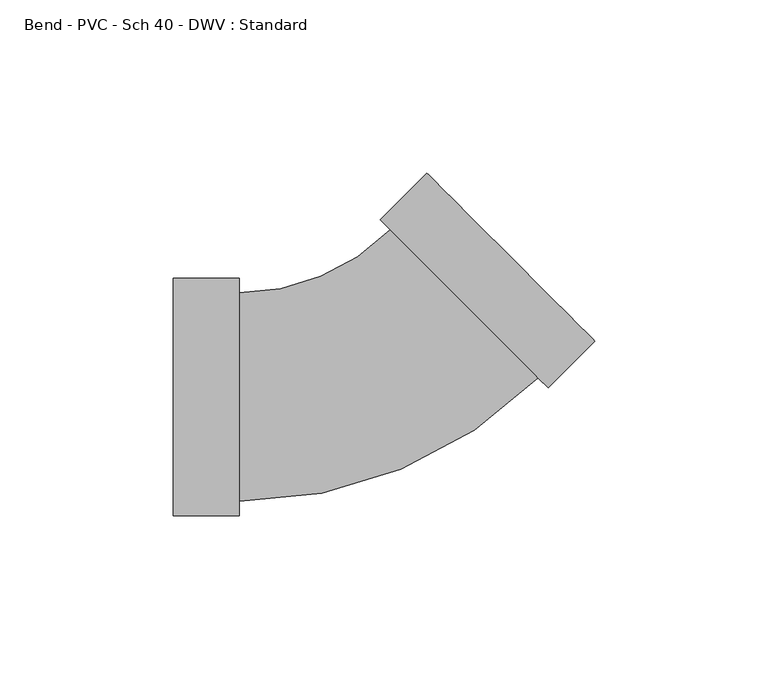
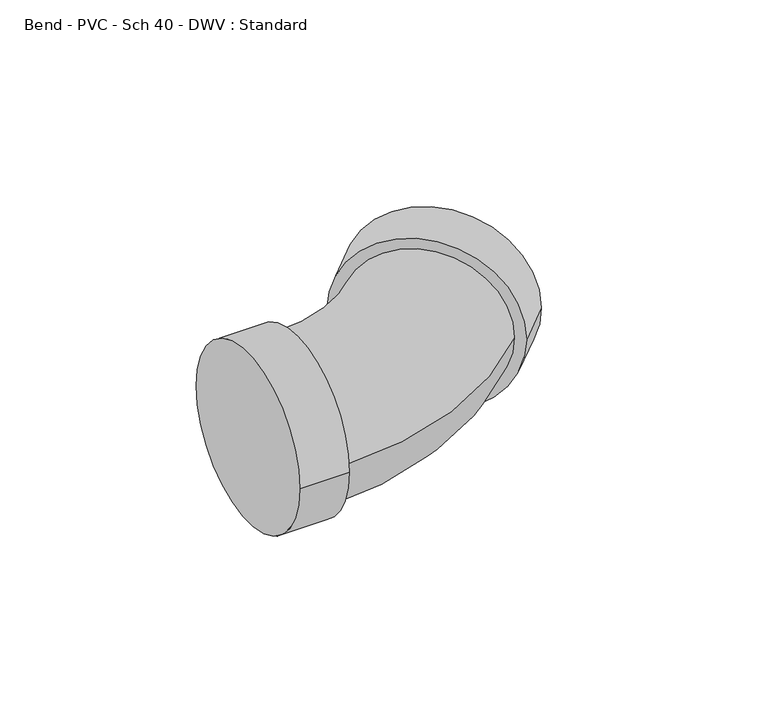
"""IFC4 building model written with IfcOpenShell, lengths in millimetres: pipe fitting geometry, Bend - PVC - Sch 40 - DWV : Standard."""

from ifc_helpers import new_model, si_unit, point, frame, origin, place, context, project, spatial, circle_curve, ellipse_curve, trimmed, source, transform, mapped, element, save
from ifc_brep_helpers import plane_surface, cylinder_surface, revolved_surface, advanced_brep


def bend_pvc_sch_40_dwv_standard_8819fd82(model_context):
    return source(origin(), model_context, "Body", "AdvancedBrep", [
        advanced_brep(
        [(-57.15, -34.3154, 0.0), (-57.15, 34.3154, 0.0), (-38.1, -34.3154, 0.0), (-38.1, 34.3154, 0.0), (-38.1, -30.1625, 0.0), (-38.1, 30.1625, 0.0), (5.6157147, 48.2685214, 0.0), (48.2692317, 5.6096054, 0.0), (51.2055897, 2.6728758, 0.0), (2.6793568, 51.2052509, 0.0), (64.6768263, 16.1424075, 0.0), (16.1505935, 64.6747826, 0.0)],
        [
            (0, 1, circle_curve(frame((-57.15, 0.0, 0.0), z_axis=(-1.0, 0.0, 0.0), x_axis=(0.0, 1.0, 0.0)), 34.3154)),
            (1, 0, circle_curve(frame((-57.15, 0.0, 0.0), z_axis=(-1.0, 0.0, 0.0), x_axis=(0.0, 1.0, 0.0)), 34.3154)),
            (2, 3, circle_curve(frame((-38.1, 0.0, 0.0), z_axis=(1.0, 0.0, 0.0), x_axis=(0.0, 1.0, 0.0)), 34.3154)),
            (3, 2, circle_curve(frame((-38.1, 0.0, 0.0), z_axis=(1.0, 0.0, 0.0), x_axis=(0.0, 1.0, 0.0)), 34.3154)),
            (4, 5, circle_curve(frame((-38.1, 0.0, 0.0), z_axis=(-1.0, 0.0, 0.0), x_axis=(0.0, 1.0, 0.0)), 30.1625)),
            (5, 4, circle_curve(frame((-38.1, 0.0, 0.0), z_axis=(-1.0, 0.0, 0.0), x_axis=(0.0, 1.0, 0.0)), 30.1625)),
            (0, 2),
            (3, 1),
            (6, 5, circle_curve(frame((-38.1, 91.9897695, 0.0), z_axis=(0.0, 0.0, -1.0), x_axis=(0.0, -1.0, 0.0)), 61.8272695)),
            (4, 7, circle_curve(frame((-38.1, 91.9897695, 0.0), z_axis=(0.0, 0.0, 1.0), x_axis=(0.0, -1.0, 0.0)), 122.1522695)),
            (7, 6, circle_curve(frame((26.9424732, 26.9390634, 0.0), z_axis=(-0.7071515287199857, -0.7070620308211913, 0.0), x_axis=(-0.7070620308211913, 0.7071515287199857, 0.0)), 30.1625)),
            (6, 7, circle_curve(frame((26.9424732, 26.9390634, 0.0), z_axis=(-0.7071515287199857, -0.7070620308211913, 0.0), x_axis=(-0.7070620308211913, 0.7071515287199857, 0.0)), 30.1625)),
            (8, 9, circle_curve(frame((26.9424732, 26.9390634, 0.0), z_axis=(-0.7071515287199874, -0.7070620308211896, 0.0), x_axis=(-0.7070620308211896, 0.7071515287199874, 0.0)), 34.3154)),
            (9, 8, circle_curve(frame((26.9424732, 26.9390634, 0.0), z_axis=(-0.7071515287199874, -0.7070620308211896, 0.0), x_axis=(-0.7070620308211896, 0.7071515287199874, 0.0)), 34.3154)),
            (10, 11, circle_curve(frame((40.4137099, 40.4085951, 0.0), z_axis=(0.7071515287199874, 0.7070620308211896, 0.0), x_axis=(-0.7070620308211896, 0.7071515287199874, 0.0)), 34.3154)),
            (11, 10, circle_curve(frame((40.4137099, 40.4085951, 0.0), z_axis=(0.7071515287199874, 0.7070620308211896, 0.0), x_axis=(-0.7070620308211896, 0.7071515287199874, 0.0)), 34.3154)),
            (8, 10),
            (11, 9),
        ],
        [
            plane_surface(frame((-57.15, 0.0, 0.0), z_axis=(-1.0, 0.0, 0.0), x_axis=(0.0, 0.0, 1.0))),
            plane_surface(frame((-38.1, 0.0, 0.0), z_axis=(1.0, 0.0, 0.0), x_axis=(0.0, 0.0, 1.0))),
            cylinder_surface(frame((-57.15, 0.0, 0.0), z_axis=(-1.0, 0.0, 0.0), x_axis=(0.0, 1.0, 0.0)), 34.3154),
            revolved_surface(trimmed(ellipse_curve(frame((-38.1, 0.0, 0.0), z_axis=(-1.0, 0.0, 0.0), x_axis=(0.0, 1.0, 0.0)), 30.1625, 30.1625), [point((-38.1, -30.1625, 0.0))], [point((-38.1, 30.1625, 0.0))], True, "CARTESIAN"), (-38.1, 91.9897695, 0.0), (0.0, 0.0, 1.0)),
            revolved_surface(trimmed(ellipse_curve(frame((-38.1, 0.0, 0.0), z_axis=(-1.0, 0.0, 0.0), x_axis=(0.0, 1.0, 0.0)), 30.1625, 30.1625), [point((-38.1, 30.1625, 0.0))], [point((-38.1, -30.1625, 0.0))], True, "CARTESIAN"), (-38.1, 91.9897695, 0.0), (0.0, 0.0, 1.0)),
            plane_surface(frame((26.9424732, 26.9390634, 0.0), z_axis=(-0.7071515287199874, -0.7070620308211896, 0.0), x_axis=(0.0, 0.0, 1.0))),
            plane_surface(frame((40.4137099, 40.4085951, 0.0), z_axis=(0.7071515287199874, 0.7070620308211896, 0.0), x_axis=(0.0, 0.0, 1.0))),
            cylinder_surface(frame((26.9424732, 26.9390634, 0.0), z_axis=(-0.7071515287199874, -0.7070620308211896, 0.0), x_axis=(-0.7070620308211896, 0.7071515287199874, 0.0)), 34.3154),
        ],
        [
            (0, [[1, 2]]),
            (1, [[3, 4], [5, 6]]),
            (2, [[-1, 7, -4, 8]]),
            (2, [[-2, -8, -3, -7]]),
            (3, [[9, -5, 10, 11]]),
            (4, [[-9, 12, -10, -6]]),
            (5, [[13, 14], [-11, -12]]),
            (6, [[15, 16]]),
            (7, [[-13, 17, -16, 18]]),
            (7, [[-14, -18, -15, -17]]),
        ],
    ),
    ])


if __name__ == "__main__":
    model = new_model("IFC4")
    model_context = context("Model", 3, world=origin())
    ifc_project = project(units=[si_unit("LENGTHUNIT", "METRE", prefix="MILLI")], contexts=[model_context])
    site = spatial("IfcSite", under=ifc_project)
    building = spatial("IfcBuilding", under=site)
    placement = place(None, origin())
    bend_pvc_sch_40_dwv_standard_shape = bend_pvc_sch_40_dwv_standard_8819fd82(model_context)
    element("IfcPipeFitting", 1, ObjectType="Bend - PVC - Sch 40 - DWV : Standard", at=placement, inside=building, context=model_context, shape_type="MappedRepresentation", body=[
        mapped(bend_pvc_sch_40_dwv_standard_shape, transform((0.0, 0.0, 0.0), x_axis=(1.0, 0.0, 0.0), y_axis=(0.0, 1.0, 0.0), z_axis=(0.0, 0.0, 1.0))),
    ])
    save(model, "model.ifc")
